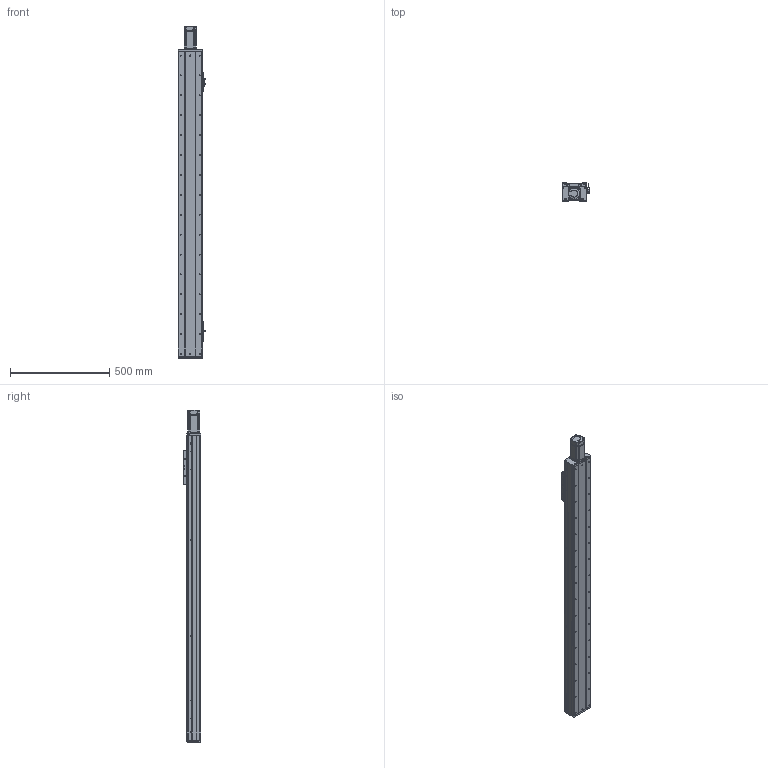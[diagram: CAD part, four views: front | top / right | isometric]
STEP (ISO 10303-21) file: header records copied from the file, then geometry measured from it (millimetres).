
FILE_DESCRIPTION (( 'STEP AP203' ), '1' );
FILE_NAME ('RY120F-L2010-1000-MK.SLDASM_1250.step', '2021-03-02T06:06:13', ( '盈信电脑' ), ( '东莞市道滘镇水果街19号' ), 'SwSTEP 2.0', 'SolidWorks 2012', '' );
FILE_SCHEMA (( 'CONFIG_CONTROL_DESIGN' ));
Products named in the file (23): 粣杶; RY120F-L2010-1000-MK.SLDASM_1250; RY120F-蚥薯蝶幗謫郪磁; 蚥薯蝶幗謫; MF95ZZ; RY120F-钢带滚轮轴(优力胶); 滅袉蝶18-17; RY80俋离覜茼え; FY120F詩湍揤踡輸; 672嫖萇羲壽假蚾釱; 覜茼ん672; RY120F綴裔啣(臏璃ㄘ; RY120F眻蟀ヶ裔啣; 滅袉蝶18-24; RY120F不锈钢防尘盖(优力胶）; 15; RY120F-铝滑块上座（优力胶）; 侂狟400W侜督萇儂; RY120F-臏賑輸 20蹟譫; RY120F滅鳥詩湍-1000-MK_1250; 絳寢賑輸EGH15; RY120F-1000-倰第裔啣_1250; RY120F-1000-倰第菁釱_1250
Assembly tree (34 placements, depth 3):
  RY120F-L2010-1000-MK.SLDASM_1250
    RY120F-1000-倰第菁釱_1250
    RY120F-1000-倰第裔啣_1250  x2
    RY120F滅鳥詩湍-1000-MK_1250
    RY120F-臏賑輸 20蹟譫
    絳寢賑輸EGH15  x2
    RY120F-铝滑块上座（优力胶）
    侂狟400W侜督萇儂
      15
    RY120F眻蟀ヶ裔啣
    RY120F不锈钢防尘盖(优力胶）
    滅袉蝶18-24
    RY120F綴裔啣(臏璃ㄘ
    覜茼ん672  x3
    672嫖萇羲壽假蚾釱  x2
    RY80俋离覜茼え
    FY120F詩湍揤踡輸  x2
    滅袉蝶18-17  x2
    RY120F-蚥薯蝶幗謫郪磁
      RY120F-钢带滚轮轴(优力胶)
      蚥薯蝶幗謫  x2
      MF95ZZ  x4
      粣杶  x2
Bounding box: 140.35 x 89 x 1668.5 mm (x, y, z)
Volume: 4858376.9 mm3; surface area: 1776283.1 mm2
Topology: 32 solids, 32 shells, 2333 faces, 6201 edges, 3963 vertices
Faces by surface type: cylinder 1096, plane 988, cone 231, bspline 18
Entity records: 62424 total; most frequent: CARTESIAN_POINT 11250, DIRECTION 10527, ORIENTED_EDGE 9762, EDGE_CURVE 4881, AXIS2_PLACEMENT_3D 3840, VERTEX_POINT 3195, LINE 2847, VECTOR 2847
